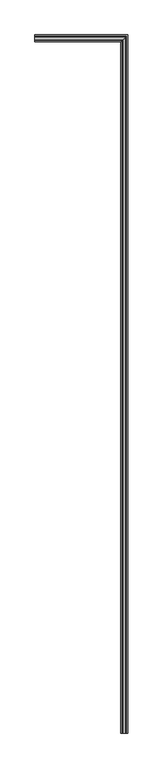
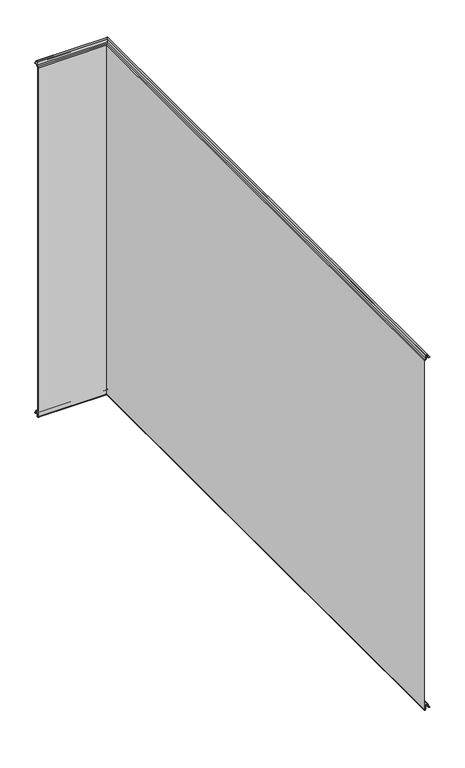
"""IFC4 building model written with IfcOpenShell, lengths in millimetres: plate geometry, Угловой модуль Fronttop : Угловой модуль Fronttop 150/1000."""

from ifc_helpers import new_model, si_unit, frame, origin, place, context, project, spatial, polyline, circle_curve, ellipse_curve, source, transform, mapped, element, save
from ifc_brep_helpers import plane_surface, cylinder_surface, revolved_surface, advanced_brep


def plate_86350484(model_context):
    return source(origin(), model_context, "Body", "AdvancedBrep", [
        advanced_brep(
        [(-159.5, 13.0, 1001.0), (-159.5, 15.0, 1001.0), (-159.5, 15.0, 1000.0), (-159.5, 13.0, 1000.0), (-159.5, 9.0, 1004.0), (-159.5, 9.0, 1008.0), (-159.5, 6.0, 1008.0), (-159.5, 6.0, 999.5), (-159.5, 2.1134897, 996.0214069), (-159.5, 1.0, 995.0), (-159.5, 1.0, -0.5), (-159.5, 3.0, -0.5), (-159.5, 3.0, 8.0), (-159.5, 12.0, 8.0), (-159.5, 12.0, 4.0), (-159.5, 13.0, 3.0), (-159.5, 15.0, 3.0), (-159.5, 15.0, 2.0), (-159.5, 13.0, 2.0), (-159.5, 11.0, 4.0), (-159.5, 11.0, 8.0), (-159.5, 4.0, 8.0), (-159.5, 4.0, -0.5), (-159.5, 0.0, -0.5), (-159.5, 0.0, 995.0), (-159.5, 2.220863, 996.9877675), (-159.5, 5.0, 999.5), (-159.5, 5.0, 1008.0), (-159.5, 10.0, 1008.0), (-159.5, 10.0, 1004.0), (38.0, 13.0, 1001.0), (38.0, -1484.5, 1001.0), (40.0, -1484.5, 1001.0), (40.0, 15.0, 1001.0), (40.0, 15.0, 1000.0), (40.0, -1484.5, 1000.0), (38.0, -1484.5, 1000.0), (38.0, 13.0, 1000.0), (34.0, 9.0, 1004.0), (34.0, 9.0, 1008.0), (31.0, 6.0, 1008.0), (31.0, 6.0, 999.5), (27.1134897, 2.1134897, 996.0214069), (26.0, 1.0, 995.0), (26.0, 1.0, -0.5), (28.0, 3.0, -0.5), (28.0, 3.0, 8.0), (37.0, 12.0, 8.0), (37.0, 12.0, 4.0), (38.0, 13.0, 3.0), (38.0, -1484.5, 3.0), (40.0, -1484.5, 3.0), (40.0, 15.0, 3.0), (40.0, 15.0, 2.0), (40.0, -1484.5, 2.0), (38.0, -1484.5, 2.0), (38.0, 13.0, 2.0), (36.0, 11.0, 4.0), (36.0, 11.0, 8.0), (29.0, 4.0, 8.0), (29.0, 4.0, -0.5), (25.0, 0.0, -0.5), (25.0, 0.0, 995.0), (27.220863, 2.220863, 996.9877675), (30.0, 5.0, 999.5), (30.0, 5.0, 1008.0), (35.0, 10.0, 1008.0), (35.0, 10.0, 1004.0), (35.0, -1484.5, 1004.0), (35.0, -1484.5, 1008.0), (30.0, -1484.5, 1008.0), (30.0, -1484.5, 999.5), (27.2239212, -1484.5, 997.0152907), (25.0, -1484.5, 995.0), (25.0, -1484.5, -0.5), (29.0, -1484.5, -0.5), (29.0, -1484.5, 8.0), (36.0, -1484.5, 8.0), (36.0, -1484.5, 4.0), (37.0, -1484.5, 4.0), (37.0, -1484.5, 8.0), (28.0, -1484.5, 8.0), (28.0, -1484.5, -0.5), (26.0, -1484.5, -0.5), (26.0, -1484.5, 995.0), (27.1104315, -1484.5, 995.9938837), (31.0, -1484.5, 999.5), (31.0, -1484.5, 1008.0), (34.0, -1484.5, 1008.0), (34.0, -1484.5, 1004.0)],
        [
            (0, 1),
            (1, 2),
            (2, 3),
            (3, 4, circle_curve(frame((-159.5, 13.0, 1004.0), z_axis=(-1.0, 0.0, 0.0), x_axis=(0.0, -1.0, 0.0)), 4.0)),
            (4, 5),
            (5, 6, circle_curve(frame((-159.5, 7.5, 1008.0), z_axis=(1.0, 0.0, 0.0), x_axis=(0.0, -1.0, 0.0)), 1.5)),
            (6, 7),
            (7, 8, circle_curve(frame((-159.5, 2.5, 999.5), z_axis=(-1.0, 0.0, 0.0), x_axis=(0.0, -1.0, 0.0)), 3.5)),
            (8, 9, circle_curve(frame((-159.5, 2.0, 995.0), z_axis=(1.0, 0.0, 0.0), x_axis=(0.0, -1.0, 0.0)), 1.0)),
            (9, 10),
            (10, 11, circle_curve(frame((-159.5, 2.0, -0.5), z_axis=(1.0, 0.0, 0.0), x_axis=(0.0, -1.0, 0.0)), 1.0)),
            (11, 12),
            (12, 13, circle_curve(frame((-159.5, 7.5, 8.0), z_axis=(-1.0, 0.0, 0.0), x_axis=(0.0, -1.0, 0.0)), 4.5)),
            (13, 14),
            (14, 15, circle_curve(frame((-159.5, 13.0, 4.0), z_axis=(1.0, 0.0, 0.0), x_axis=(0.0, -1.0, 0.0)), 1.0)),
            (15, 16),
            (16, 17),
            (17, 18),
            (18, 19, circle_curve(frame((-159.5, 13.0, 4.0), z_axis=(-1.0, 0.0, 0.0), x_axis=(0.0, -1.0, 0.0)), 2.0)),
            (19, 20),
            (20, 21, circle_curve(frame((-159.5, 7.5, 8.0), z_axis=(1.0, 0.0, 0.0), x_axis=(0.0, -1.0, 0.0)), 3.5)),
            (21, 22),
            (22, 23, circle_curve(frame((-159.5, 2.0, -0.5), z_axis=(-1.0, 0.0, 0.0), x_axis=(0.0, -1.0, 0.0)), 2.0)),
            (23, 24),
            (24, 25, circle_curve(frame((-159.5, 2.0, 995.0), z_axis=(-1.0, 0.0, 0.0), x_axis=(0.0, -1.0, 0.0)), 2.0)),
            (25, 26, circle_curve(frame((-159.5, 2.5, 999.5), z_axis=(1.0, 0.0, 0.0), x_axis=(0.0, -1.0, 0.0)), 2.5)),
            (26, 27),
            (27, 28, circle_curve(frame((-159.5, 7.5, 1008.0), z_axis=(-1.0, 0.0, 0.0), x_axis=(0.0, -1.0, 0.0)), 2.5)),
            (28, 29),
            (29, 0, circle_curve(frame((-159.5, 13.0, 1004.0), z_axis=(1.0, 0.0, 0.0), x_axis=(0.0, -1.0, 0.0)), 3.0)),
            (0, 30),
            (30, 31),
            (31, 32),
            (32, 33),
            (33, 1),
            (33, 34),
            (34, 2),
            (34, 35),
            (35, 36),
            (36, 37),
            (37, 3),
            (37, 38, ellipse_curve(frame((38.0, 13.0, 1004.0), z_axis=(-0.7071067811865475, 0.7071067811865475, 0.0), x_axis=(-0.7071067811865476, -0.7071067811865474, 0.0)), 5.6568542, 4.0)),
            (38, 4),
            (38, 39),
            (39, 5),
            (39, 40, ellipse_curve(frame((32.5, 7.5, 1008.0), z_axis=(0.7071067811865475, -0.7071067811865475, 0.0), x_axis=(0.7071067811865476, 0.7071067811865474, 0.0)), 2.1213204, 1.5)),
            (40, 6),
            (40, 41),
            (41, 7),
            (41, 42, ellipse_curve(frame((27.5, 2.5, 999.5), z_axis=(-0.7071067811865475, 0.7071067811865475, 0.0), x_axis=(-0.7071067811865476, -0.7071067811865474, 0.0)), 4.9497475, 3.5)),
            (42, 8),
            (42, 43, ellipse_curve(frame((27.0, 2.0, 995.0), z_axis=(0.7071067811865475, -0.7071067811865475, 0.0), x_axis=(0.7071067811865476, 0.7071067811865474, 0.0)), 1.4142136, 1.0)),
            (43, 9),
            (43, 44),
            (44, 10),
            (44, 45, ellipse_curve(frame((27.0, 2.0, -0.5), z_axis=(0.7071067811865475, -0.7071067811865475, 0.0), x_axis=(0.7071067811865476, 0.7071067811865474, 0.0)), 1.4142136, 1.0)),
            (45, 11),
            (45, 46),
            (46, 12),
            (46, 47, ellipse_curve(frame((32.5, 7.5, 8.0), z_axis=(-0.7071067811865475, 0.7071067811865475, 0.0), x_axis=(-0.7071067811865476, -0.7071067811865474, 0.0)), 6.363961, 4.5)),
            (47, 13),
            (47, 48),
            (48, 14),
            (48, 49, ellipse_curve(frame((38.0, 13.0, 4.0), z_axis=(0.7071067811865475, -0.7071067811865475, 0.0), x_axis=(0.7071067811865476, 0.7071067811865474, 0.0)), 1.4142136, 1.0)),
            (49, 15),
            (49, 50),
            (50, 51),
            (51, 52),
            (52, 16),
            (52, 53),
            (53, 17),
            (53, 54),
            (54, 55),
            (55, 56),
            (56, 18),
            (56, 57, ellipse_curve(frame((38.0, 13.0, 4.0), z_axis=(-0.7071067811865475, 0.7071067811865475, 0.0), x_axis=(-0.7071067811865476, -0.7071067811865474, 0.0)), 2.8284271, 2.0)),
            (57, 19),
            (57, 58),
            (58, 20),
            (58, 59, ellipse_curve(frame((32.5, 7.5, 8.0), z_axis=(0.7071067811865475, -0.7071067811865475, 0.0), x_axis=(0.7071067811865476, 0.7071067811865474, 0.0)), 4.9497475, 3.5)),
            (59, 21),
            (59, 60),
            (60, 22),
            (60, 61, ellipse_curve(frame((27.0, 2.0, -0.5), z_axis=(-0.7071067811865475, 0.7071067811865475, 0.0), x_axis=(-0.7071067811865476, -0.7071067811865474, 0.0)), 2.8284271, 2.0)),
            (61, 23),
            (61, 62),
            (62, 24),
            (62, 63, ellipse_curve(frame((27.0, 2.0, 995.0), z_axis=(-0.7071067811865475, 0.7071067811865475, 0.0), x_axis=(-0.7071067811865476, -0.7071067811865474, 0.0)), 2.8284271, 2.0)),
            (63, 25),
            (63, 64, ellipse_curve(frame((27.5, 2.5, 999.5), z_axis=(0.7071067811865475, -0.7071067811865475, 0.0), x_axis=(0.7071067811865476, 0.7071067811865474, 0.0)), 3.5355339, 2.5)),
            (64, 26),
            (64, 65),
            (65, 27),
            (65, 66, ellipse_curve(frame((32.5, 7.5, 1008.0), z_axis=(-0.7071067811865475, 0.7071067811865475, 0.0), x_axis=(-0.7071067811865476, -0.7071067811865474, 0.0)), 3.5355339, 2.5)),
            (66, 28),
            (66, 67),
            (67, 29),
            (67, 30, ellipse_curve(frame((38.0, 13.0, 1004.0), z_axis=(0.7071067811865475, -0.7071067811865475, 0.0), x_axis=(0.7071067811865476, 0.7071067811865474, 0.0)), 4.2426407, 3.0)),
            (31, 68, circle_curve(frame((38.0, -1484.5, 1004.0), z_axis=(0.0, 1.0, 0.0), x_axis=(-1.0, 0.0, 0.0)), 3.0)),
            (68, 69),
            (69, 70, circle_curve(frame((32.5, -1484.5, 1008.0), z_axis=(0.0, -1.0, 0.0), x_axis=(-1.0, 0.0, 0.0)), 2.5)),
            (70, 71),
            (71, 72, circle_curve(frame((27.5, -1484.5, 999.5), z_axis=(0.0, 1.0, 0.0), x_axis=(-1.0, 0.0, 0.0)), 2.5)),
            (72, 73, circle_curve(frame((27.0, -1484.5, 995.0), z_axis=(0.0, -1.0, 0.0), x_axis=(-1.0, 0.0, 0.0)), 2.0)),
            (73, 74),
            (74, 75, circle_curve(frame((27.0, -1484.5, -0.5), z_axis=(0.0, -1.0, 0.0), x_axis=(-1.0, 0.0, 0.0)), 2.0)),
            (75, 76),
            (76, 77, circle_curve(frame((32.5, -1484.5, 8.0), z_axis=(0.0, 1.0, 0.0), x_axis=(-1.0, 0.0, 0.0)), 3.5)),
            (77, 78),
            (78, 55, circle_curve(frame((38.0, -1484.5, 4.0), z_axis=(0.0, -1.0, 0.0), x_axis=(-1.0, 0.0, 0.0)), 2.0)),
            (54, 51),
            (50, 79, circle_curve(frame((38.0, -1484.5, 4.0), z_axis=(0.0, 1.0, 0.0), x_axis=(-1.0, 0.0, 0.0)), 1.0)),
            (79, 80),
            (80, 81, circle_curve(frame((32.5, -1484.5, 8.0), z_axis=(0.0, -1.0, 0.0), x_axis=(-1.0, 0.0, 0.0)), 4.5)),
            (81, 82),
            (82, 83, circle_curve(frame((27.0, -1484.5, -0.5), z_axis=(0.0, 1.0, 0.0), x_axis=(-1.0, 0.0, 0.0)), 1.0)),
            (83, 84),
            (84, 85, circle_curve(frame((27.0, -1484.5, 995.0), z_axis=(0.0, 1.0, 0.0), x_axis=(-1.0, 0.0, 0.0)), 1.0)),
            (85, 86, circle_curve(frame((27.5, -1484.5, 999.5), z_axis=(0.0, -1.0, 0.0), x_axis=(-1.0, 0.0, 0.0)), 3.5)),
            (86, 87),
            (87, 88, circle_curve(frame((32.5, -1484.5, 1008.0), z_axis=(0.0, 1.0, 0.0), x_axis=(-1.0, 0.0, 0.0)), 1.5)),
            (88, 89),
            (89, 36, circle_curve(frame((38.0, -1484.5, 1004.0), z_axis=(0.0, -1.0, 0.0), x_axis=(-1.0, 0.0, 0.0)), 4.0)),
            (35, 32),
            (89, 38),
            (88, 39),
            (87, 40),
            (86, 41),
            (85, 42),
            (84, 43),
            (83, 44),
            (82, 45),
            (81, 46),
            (80, 47),
            (79, 48),
            (78, 57),
            (77, 58),
            (76, 59),
            (75, 60),
            (74, 61),
            (73, 62),
            (72, 63),
            (71, 64),
            (70, 65),
            (69, 66),
            (68, 67),
        ],
        [
            plane_surface(frame((-159.5, 0.0, 0.0), z_axis=(-1.0, 0.0, 0.0), x_axis=(0.0, 0.0, 1.0))),
            plane_surface(frame((-159.5, 13.0, 1001.0), z_axis=(0.0, 0.0, 1.0), x_axis=(1.0, 0.0, 0.0))),
            plane_surface(frame((-159.5, 15.0, 1001.0), z_axis=(0.0, 1.0, 0.0), x_axis=(1.0, 0.0, 0.0))),
            plane_surface(frame((-159.5, 15.0, 1000.0), z_axis=(0.0, 0.0, -1.0), x_axis=(1.0, 0.0, 0.0))),
            cylinder_surface(frame((-159.5, 13.0, 1004.0), z_axis=(-1.0, 0.0, 0.0), x_axis=(0.0, -1.0, 0.0)), 4.0),
            plane_surface(frame((-159.5, 9.0, 1004.0), z_axis=(0.0, -1.0, 0.0), x_axis=(1.0, 0.0, 0.0))),
            revolved_surface(polyline([(34.00000003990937, 6.0, 1008.0), (-159.5, 6.0, 1008.0)]), (-159.5, 7.5, 1008.0), (1.0, 0.0, 0.0)),
            plane_surface(frame((-159.5, 6.0, 1008.0), z_axis=(0.0, 1.0, 0.0), x_axis=(1.0, 0.0, 0.0))),
            cylinder_surface(frame((-159.5, 2.5, 999.5), z_axis=(-1.0, 0.0, 0.0), x_axis=(0.0, -1.0, 0.0)), 3.5),
            revolved_surface(polyline([(28.000000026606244, 1.0, 995.0), (-159.5, 1.0, 995.0)]), (-159.5, 2.0, 995.0), (1.0, 0.0, 0.0)),
            plane_surface(frame((-159.5, 1.0, 995.0), z_axis=(0.0, 1.0, 0.0), x_axis=(1.0, 0.0, 0.0))),
            revolved_surface(polyline([(28.000000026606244, 1.0, -0.5), (-159.5, 1.0, -0.5)]), (-159.5, 2.0, -0.5), (1.0, 0.0, 0.0)),
            plane_surface(frame((-159.5, 3.0, -0.5), z_axis=(0.0, -1.0, 0.0), x_axis=(1.0, 0.0, 0.0))),
            cylinder_surface(frame((-159.5, 7.5, 8.0), z_axis=(-1.0, 0.0, 0.0), x_axis=(0.0, -1.0, 0.0)), 4.5),
            plane_surface(frame((-159.5, 12.0, 8.0), z_axis=(0.0, 1.0, 0.0), x_axis=(1.0, 0.0, 0.0))),
            revolved_surface(polyline([(39.000000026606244, 12.0, 4.0), (-159.5, 12.0, 4.0)]), (-159.5, 13.0, 4.0), (1.0, 0.0, 0.0)),
            plane_surface(frame((-159.5, 13.0, 3.0), z_axis=(0.0, 0.0, 1.0), x_axis=(1.0, 0.0, 0.0))),
            plane_surface(frame((-159.5, 15.0, 3.0), z_axis=(0.0, 1.0, 0.0), x_axis=(1.0, 0.0, 0.0))),
            plane_surface(frame((-159.5, 15.0, 2.0), z_axis=(0.0, 0.0, -1.0), x_axis=(1.0, 0.0, 0.0))),
            cylinder_surface(frame((-159.5, 13.0, 4.0), z_axis=(-1.0, 0.0, 0.0), x_axis=(0.0, -1.0, 0.0)), 2.0),
            plane_surface(frame((-159.5, 11.0, 4.0), z_axis=(0.0, -1.0, 0.0), x_axis=(1.0, 0.0, 0.0))),
            revolved_surface(polyline([(36.00000002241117, 4.0, 8.0), (-159.5, 4.0, 8.0)]), (-159.5, 7.5, 8.0), (1.0, 0.0, 0.0)),
            plane_surface(frame((-159.5, 4.0, 8.0), z_axis=(0.0, 1.0, 0.0), x_axis=(1.0, 0.0, 0.0))),
            cylinder_surface(frame((-159.5, 2.0, -0.5), z_axis=(-1.0, 0.0, 0.0), x_axis=(0.0, -1.0, 0.0)), 2.0),
            plane_surface(frame((-159.5, 0.0, -0.5), z_axis=(0.0, -1.0, 0.0), x_axis=(1.0, 0.0, 0.0))),
            cylinder_surface(frame((-159.5, 2.0, 995.0), z_axis=(-1.0, 0.0, 0.0), x_axis=(0.0, -1.0, 0.0)), 2.0),
            revolved_surface(polyline([(30.0, 0.0, 999.5), (-159.5, 0.0, 999.5)]), (-159.5, 2.5, 999.5), (1.0, 0.0, 0.0)),
            plane_surface(frame((-159.5, 5.0, 999.5), z_axis=(0.0, -1.0, 0.0), x_axis=(1.0, 0.0, 0.0))),
            cylinder_surface(frame((-159.5, 7.5, 1008.0), z_axis=(-1.0, 0.0, 0.0), x_axis=(0.0, -1.0, 0.0)), 2.5),
            plane_surface(frame((-159.5, 10.0, 1008.0), z_axis=(0.0, 1.0, 0.0), x_axis=(1.0, 0.0, 0.0))),
            revolved_surface(polyline([(41.00000000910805, 10.0, 1004.0), (-159.5, 10.0, 1004.0)]), (-159.5, 13.0, 1004.0), (1.0, 0.0, 0.0)),
            plane_surface(frame((25.0, -1484.5, 0.0), z_axis=(0.0, -1.0, 0.0), x_axis=(0.0, 0.0, 1.0))),
            plane_surface(frame((40.0, 15.0, 1001.0), z_axis=(1.0, 0.0, 0.0), x_axis=(0.0, -1.0, 0.0))),
            cylinder_surface(frame((38.0, 0.0, 1004.0), z_axis=(0.0, 1.0, 0.0), x_axis=(-1.0, 0.0, 0.0)), 4.0),
            plane_surface(frame((34.0, 9.0, 1004.0), z_axis=(-1.0, 0.0, 0.0), x_axis=(0.0, -1.0, 0.0))),
            revolved_surface(polyline([(31.0, -1484.5, 1008.0), (31.0, 9.00000003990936, 1008.0)]), (32.5, 0.0, 1008.0), (0.0, -1.0, 0.0)),
            plane_surface(frame((31.0, 6.0, 1008.0), z_axis=(1.0, 0.0, 0.0), x_axis=(0.0, -1.0, 0.0))),
            cylinder_surface(frame((27.5, 0.0, 999.5), z_axis=(0.0, 1.0, 0.0), x_axis=(-1.0, 0.0, 0.0)), 3.5),
            revolved_surface(polyline([(26.0, -1484.5, 995.0), (26.0, 3.0000000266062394, 995.0)]), (27.0, 0.0, 995.0), (0.0, -1.0, 0.0)),
            plane_surface(frame((26.0, 1.0, 995.0), z_axis=(1.0, 0.0, 0.0), x_axis=(0.0, -1.0, 0.0))),
            revolved_surface(polyline([(26.0, -1484.5, -0.5), (26.0, 3.0000000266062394, -0.5)]), (27.0, 0.0, -0.5), (0.0, -1.0, 0.0)),
            plane_surface(frame((28.0, 3.0, -0.5), z_axis=(-1.0, 0.0, 0.0), x_axis=(0.0, -1.0, 0.0))),
            cylinder_surface(frame((32.5, 0.0, 8.0), z_axis=(0.0, 1.0, 0.0), x_axis=(-1.0, 0.0, 0.0)), 4.5),
            plane_surface(frame((37.0, 12.0, 8.0), z_axis=(1.0, 0.0, 0.0), x_axis=(0.0, -1.0, 0.0))),
            revolved_surface(polyline([(37.0, -1484.5, 4.0), (37.0, 14.000000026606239, 4.0)]), (38.0, 0.0, 4.0), (0.0, -1.0, 0.0)),
            plane_surface(frame((40.0, 15.0, 3.0), z_axis=(1.0, 0.0, 0.0), x_axis=(0.0, -1.0, 0.0))),
            cylinder_surface(frame((38.0, 0.0, 4.0), z_axis=(0.0, 1.0, 0.0), x_axis=(-1.0, 0.0, 0.0)), 2.0),
            plane_surface(frame((36.0, 11.0, 4.0), z_axis=(-1.0, 0.0, 0.0), x_axis=(0.0, -1.0, 0.0))),
            revolved_surface(polyline([(29.0, -1484.5, 8.0), (29.0, 11.00000002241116, 8.0)]), (32.5, 0.0, 8.0), (0.0, -1.0, 0.0)),
            plane_surface(frame((29.0, 4.0, 8.0), z_axis=(1.0, 0.0, 0.0), x_axis=(0.0, -1.0, 0.0))),
            cylinder_surface(frame((27.0, 0.0, -0.5), z_axis=(0.0, 1.0, 0.0), x_axis=(-1.0, 0.0, 0.0)), 2.0),
            plane_surface(frame((25.0, 0.0, -0.5), z_axis=(-1.0, 0.0, 0.0), x_axis=(0.0, -1.0, 0.0))),
            cylinder_surface(frame((27.0, 0.0, 995.0), z_axis=(0.0, 1.0, 0.0), x_axis=(-1.0, 0.0, 0.0)), 2.0),
            revolved_surface(polyline([(25.0, -1484.5, 999.5), (25.0, 5.0, 999.5)]), (27.5, 0.0, 999.5), (0.0, -1.0, 0.0)),
            plane_surface(frame((30.0, 5.0, 999.5), z_axis=(-1.0, 0.0, 0.0), x_axis=(0.0, -1.0, 0.0))),
            cylinder_surface(frame((32.5, 0.0, 1008.0), z_axis=(0.0, 1.0, 0.0), x_axis=(-1.0, 0.0, 0.0)), 2.5),
            plane_surface(frame((35.0, 10.0, 1008.0), z_axis=(1.0, 0.0, 0.0), x_axis=(0.0, -1.0, 0.0))),
            revolved_surface(polyline([(35.0, -1484.5, 1004.0), (35.0, 16.00000000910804, 1004.0)]), (38.0, 0.0, 1004.0), (0.0, -1.0, 0.0)),
        ],
        [
            (0, [[1, 2, 3, 4, 5, 6, 7, 8, 9, 10, 11, 12, 13, 14, 15, 16, 17, 18, 19, 20, 21, 22, 23, 24, 25, 26, 27, 28, 29, 30]]),
            (1, [[-1, 31, 32, 33, 34, 35]]),
            (2, [[-2, -35, 36, 37]]),
            (3, [[-3, -37, 38, 39, 40, 41]]),
            (4, [[-4, -41, 42, 43]]),
            (5, [[-5, -43, 44, 45]]),
            (6, [[-6, -45, 46, 47]]),
            (7, [[-7, -47, 48, 49]]),
            (8, [[-8, -49, 50, 51]]),
            (9, [[-9, -51, 52, 53]]),
            (10, [[-10, -53, 54, 55]]),
            (11, [[-11, -55, 56, 57]]),
            (12, [[-12, -57, 58, 59]]),
            (13, [[-13, -59, 60, 61]]),
            (14, [[-14, -61, 62, 63]]),
            (15, [[-15, -63, 64, 65]]),
            (16, [[-16, -65, 66, 67, 68, 69]]),
            (17, [[-17, -69, 70, 71]]),
            (18, [[-18, -71, 72, 73, 74, 75]]),
            (19, [[-19, -75, 76, 77]]),
            (20, [[-20, -77, 78, 79]]),
            (21, [[-21, -79, 80, 81]]),
            (22, [[-22, -81, 82, 83]]),
            (23, [[-23, -83, 84, 85]]),
            (24, [[-24, -85, 86, 87]]),
            (25, [[-25, -87, 88, 89]]),
            (26, [[-26, -89, 90, 91]]),
            (27, [[-27, -91, 92, 93]]),
            (28, [[-28, -93, 94, 95]]),
            (29, [[-29, -95, 96, 97]]),
            (30, [[-30, -97, 98, -31]]),
            (31, [[99, 100, 101, 102, 103, 104, 105, 106, 107, 108, 109, 110, -73, 111, -67, 112, 113, 114, 115, 116, 117, 118, 119, 120, 121, 122, 123, -39, 124, -33]]),
            (32, [[-36, -34, -124, -38]]),
            (33, [[-42, -40, -123, 125]]),
            (34, [[-44, -125, -122, 126]]),
            (35, [[-46, -126, -121, 127]]),
            (36, [[-48, -127, -120, 128]]),
            (37, [[-50, -128, -119, 129]]),
            (38, [[-52, -129, -118, 130]]),
            (39, [[-54, -130, -117, 131]]),
            (40, [[-56, -131, -116, 132]]),
            (41, [[-58, -132, -115, 133]]),
            (42, [[-60, -133, -114, 134]]),
            (43, [[-62, -134, -113, 135]]),
            (44, [[-64, -135, -112, -66]]),
            (45, [[-70, -68, -111, -72]]),
            (46, [[-76, -74, -110, 136]]),
            (47, [[-78, -136, -109, 137]]),
            (48, [[-80, -137, -108, 138]]),
            (49, [[-82, -138, -107, 139]]),
            (50, [[-84, -139, -106, 140]]),
            (51, [[-86, -140, -105, 141]]),
            (52, [[-88, -141, -104, 142]]),
            (53, [[-90, -142, -103, 143]]),
            (54, [[-92, -143, -102, 144]]),
            (55, [[-94, -144, -101, 145]]),
            (56, [[-96, -145, -100, 146]]),
            (57, [[-98, -146, -99, -32]]),
        ],
    ),
    ])


if __name__ == "__main__":
    model = new_model("IFC4")
    model_context = context("Model", 3, world=origin())
    ifc_project = project(units=[si_unit("LENGTHUNIT", "METRE", prefix="MILLI")], contexts=[model_context])
    site = spatial("IfcSite", under=ifc_project)
    building = spatial("IfcBuilding", under=site)
    placement = place(None, origin())
    plate_shape = plate_86350484(model_context)
    element("IfcPlate", 1, ObjectType="Угловой модуль Fronttop : Угловой модуль Fronttop 150/1000", at=placement, inside=building, context=model_context, shape_type="MappedRepresentation", body=[
        mapped(plate_shape, transform((0.0, 0.0, 0.0), x_axis=(1.0, 0.0, 0.0), y_axis=(0.0, 1.0, 0.0), z_axis=(0.0, 0.0, 1.0))),
    ])
    save(model, "model.ifc")
